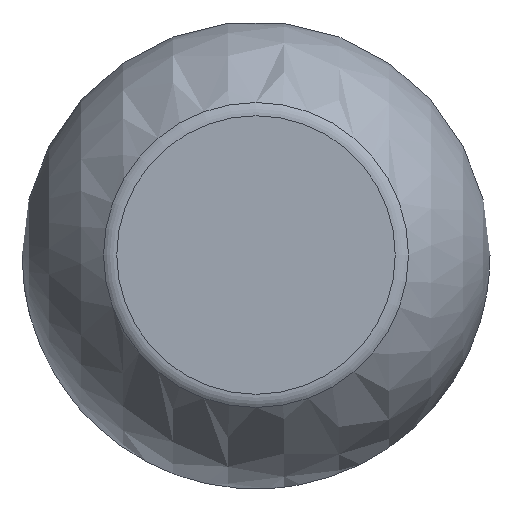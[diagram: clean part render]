
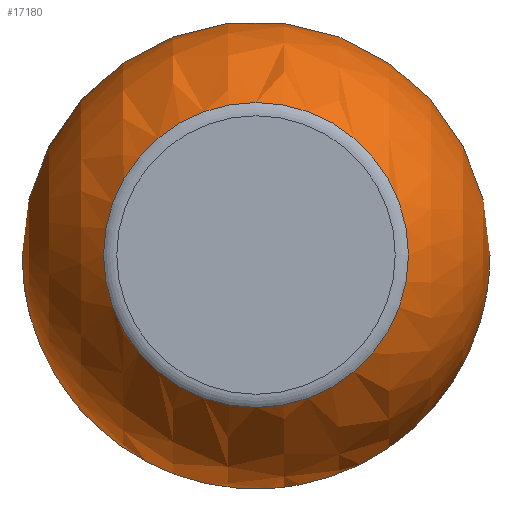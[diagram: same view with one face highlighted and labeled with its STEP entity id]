
A CAD part, top view. The second image highlights one B-rep face of the part: STEP entity #17180.
In plain terms, the highlighted spherical face has radius 18.326 mm.
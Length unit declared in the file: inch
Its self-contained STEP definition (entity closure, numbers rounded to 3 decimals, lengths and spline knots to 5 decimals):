
#61=SPHERICAL_SURFACE('',#18198,0.7215);
#3727=CIRCLE('',#18197,0.47012);
#3728=CIRCLE('',#18199,0.40377);
#3959=FACE_BOUND('',#5922,.T.);
#3960=FACE_BOUND('',#5923,.T.);
#5922=EDGE_LOOP('',(#15643));
#5923=EDGE_LOOP('',(#15644));
#8462=VERTEX_POINT('',#39042);
#8463=VERTEX_POINT('',#39045);
#10893=EDGE_CURVE('',#8462,#8462,#3727,.T.);
#10894=EDGE_CURVE('',#8463,#8463,#3728,.T.);
#15643=ORIENTED_EDGE('',*,*,#10893,.T.);
#15644=ORIENTED_EDGE('',*,*,#10894,.F.);
#17180=ADVANCED_FACE('',(#3959,#3960),#61,.T.);
#18197=AXIS2_PLACEMENT_3D('',#39043,#21132,#21133);
#18198=AXIS2_PLACEMENT_3D('',#39044,#21134,#21135);
#18199=AXIS2_PLACEMENT_3D('',#39046,#21136,#21137);
#21132=DIRECTION('center_axis',(1.,0.,0.));
#21133=DIRECTION('ref_axis',(0.,0.,-1.));
#21134=DIRECTION('center_axis',(0.,0.,1.));
#21135=DIRECTION('ref_axis',(1.,0.,0.));
#21136=DIRECTION('center_axis',(1.,0.,0.));
#21137=DIRECTION('ref_axis',(0.,0.,-1.));
#39042=CARTESIAN_POINT('',(0.01509,0.47012,0.));
#39043=CARTESIAN_POINT('Origin',(0.01509,0.,0.));
#39044=CARTESIAN_POINT('Origin',(0.5624,0.,0.));
#39045=CARTESIAN_POINT('',(1.16034,0.40377,0.));
#39046=CARTESIAN_POINT('Origin',(1.16034,0.,0.));
